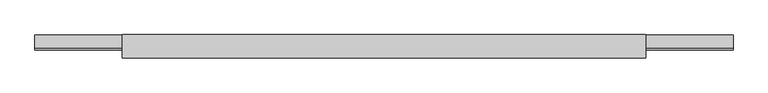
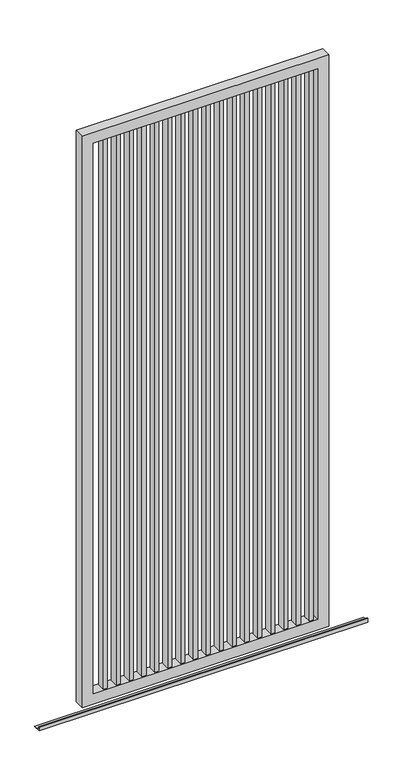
"""IFC4 building model written with IfcOpenShell, lengths in millimetres: proxy geometry, Renson_Amani_Loggia_Linea_Sliding : Renson_Amani_Loggia_Linea_Sliding."""

from ifc_helpers import new_model, si_unit, frame, origin, place, context, project, spatial, polyline, outline, extrude, source, transform, mapped, element, save


def generic_models_506817f9(model_context):
    return source(origin(), model_context, "Body", "SweptSolid", [
        extrude(outline(polyline([(396.5, 15.0), (396.5, -15.0), (381.5, -15.0), (381.5, 15.0), (396.5, 15.0)])), frame((0.0, 0.0, 85.0), z_axis=(0.0, 0.0, 1.0), x_axis=(1.0, 0.0, 0.0)), (0.0, 0.0, 1.0), 2125.0),
        extrude(outline(polyline([(349.5, 15.0), (349.5, -15.0), (334.5, -15.0), (334.5, 15.0), (349.5, 15.0)])), frame((0.0, 0.0, 85.0), z_axis=(0.0, 0.0, 1.0), x_axis=(1.0, 0.0, 0.0)), (0.0, 0.0, 1.0), 2125.0),
        extrude(outline(polyline([(302.5, 15.0), (302.5, -15.0), (287.5, -15.0), (287.5, 15.0), (302.5, 15.0)])), frame((0.0, 0.0, 85.0), z_axis=(0.0, 0.0, 1.0), x_axis=(1.0, 0.0, 0.0)), (0.0, 0.0, 1.0), 2125.0),
        extrude(outline(polyline([(255.5, 15.0), (255.5, -15.0), (240.5, -15.0), (240.5, 15.0), (255.5, 15.0)])), frame((0.0, 0.0, 85.0), z_axis=(0.0, 0.0, 1.0), x_axis=(1.0, 0.0, 0.0)), (0.0, 0.0, 1.0), 2125.0),
        extrude(outline(polyline([(208.5, 15.0), (208.5, -15.0), (193.5, -15.0), (193.5, 15.0), (208.5, 15.0)])), frame((0.0, 0.0, 85.0), z_axis=(0.0, 0.0, 1.0), x_axis=(1.0, 0.0, 0.0)), (0.0, 0.0, 1.0), 2125.0),
        extrude(outline(polyline([(161.5, 15.0), (161.5, -15.0), (146.5, -15.0), (146.5, 15.0), (161.5, 15.0)])), frame((0.0, 0.0, 85.0), z_axis=(0.0, 0.0, 1.0), x_axis=(1.0, 0.0, 0.0)), (0.0, 0.0, 1.0), 2125.0),
        extrude(outline(polyline([(114.5, 15.0), (114.5, -15.0), (99.5, -15.0), (99.5, 15.0), (114.5, 15.0)])), frame((0.0, 0.0, 85.0), z_axis=(0.0, 0.0, 1.0), x_axis=(1.0, 0.0, 0.0)), (0.0, 0.0, 1.0), 2125.0),
        extrude(outline(polyline([(67.5, 15.0), (67.5, -15.0), (52.5, -15.0), (52.5, 15.0), (67.5, 15.0)])), frame((0.0, 0.0, 85.0), z_axis=(0.0, 0.0, 1.0), x_axis=(1.0, 0.0, 0.0)), (0.0, 0.0, 1.0), 2125.0),
        extrude(outline(polyline([(20.5, 15.0), (20.5, -15.0), (5.5, -15.0), (5.5, 15.0), (20.5, 15.0)])), frame((0.0, 0.0, 85.0), z_axis=(0.0, 0.0, 1.0), x_axis=(1.0, 0.0, 0.0)), (0.0, 0.0, 1.0), 2125.0),
        extrude(outline(polyline([(-26.5, 15.0), (-26.5, -15.0), (-41.5, -15.0), (-41.5, 15.0), (-26.5, 15.0)])), frame((0.0, 0.0, 85.0), z_axis=(0.0, 0.0, 1.0), x_axis=(1.0, 0.0, 0.0)), (0.0, 0.0, 1.0), 2125.0),
        extrude(outline(polyline([(-73.5, 15.0), (-73.5, -15.0), (-88.5, -15.0), (-88.5, 15.0), (-73.5, 15.0)])), frame((0.0, 0.0, 85.0), z_axis=(0.0, 0.0, 1.0), x_axis=(1.0, 0.0, 0.0)), (0.0, 0.0, 1.0), 2125.0),
        extrude(outline(polyline([(-120.5, 15.0), (-120.5, -15.0), (-135.5, -15.0), (-135.5, 15.0), (-120.5, 15.0)])), frame((0.0, 0.0, 85.0), z_axis=(0.0, 0.0, 1.0), x_axis=(1.0, 0.0, 0.0)), (0.0, 0.0, 1.0), 2125.0),
        extrude(outline(polyline([(-167.5, 15.0), (-167.5, -15.0), (-182.5, -15.0), (-182.5, 15.0), (-167.5, 15.0)])), frame((0.0, 0.0, 85.0), z_axis=(0.0, 0.0, 1.0), x_axis=(1.0, 0.0, 0.0)), (0.0, 0.0, 1.0), 2125.0),
        extrude(outline(polyline([(-214.5, 15.0), (-214.5, -15.0), (-229.5, -15.0), (-229.5, 15.0), (-214.5, 15.0)])), frame((0.0, 0.0, 85.0), z_axis=(0.0, 0.0, 1.0), x_axis=(1.0, 0.0, 0.0)), (0.0, 0.0, 1.0), 2125.0),
        extrude(outline(polyline([(-261.5, 15.0), (-261.5, -15.0), (-276.5, -15.0), (-276.5, 15.0), (-261.5, 15.0)])), frame((0.0, 0.0, 85.0), z_axis=(0.0, 0.0, 1.0), x_axis=(1.0, 0.0, 0.0)), (0.0, 0.0, 1.0), 2125.0),
        extrude(outline(polyline([(-308.5, 15.0), (-308.5, -15.0), (-323.5, -15.0), (-323.5, 15.0), (-308.5, 15.0)])), frame((0.0, 0.0, 85.0), z_axis=(0.0, 0.0, 1.0), x_axis=(1.0, 0.0, 0.0)), (0.0, 0.0, 1.0), 2125.0),
        extrude(outline(polyline([(-355.5, 15.0), (-355.5, -15.0), (-370.5, -15.0), (-370.5, 15.0), (-355.5, 15.0)])), frame((0.0, 0.0, 85.0), z_axis=(0.0, 0.0, 1.0), x_axis=(1.0, 0.0, 0.0)), (0.0, 0.0, 1.0), 2125.0),
        extrude(outline(polyline([(-6.0, 15.0), (-3.0, 15.0), (-3.0, 3.0), (20.0, 3.0), (20.0, 0.0), (-6.0, 0.0), (-6.0, 15.0)])), frame((-600.0, 0.0, 0.0), z_axis=(1.0, 0.0, 0.0), x_axis=(0.0, 1.0, 0.0)), (0.0, 0.0, 1.0), 1200.0),
        extrude(outline(polyline([(2250.0, -450.0), (45.0, -450.0), (45.0, 450.0), (2250.0, 450.0), (2250.0, -450.0)]), holes=[polyline([(2210.0, 410.0), (85.0, 410.0), (85.0, -410.0), (2210.0, -410.0), (2210.0, 410.0)])]), frame((0.0, -20.0, 0.0), z_axis=(0.0, 1.0, 0.0), x_axis=(0.0, 0.0, 1.0)), (0.0, 0.0, 1.0), 40.0),
    ])


if __name__ == "__main__":
    model = new_model("IFC4")
    model_context = context("Model", 3, world=origin())
    ifc_project = project(units=[si_unit("LENGTHUNIT", "METRE", prefix="MILLI")], contexts=[model_context])
    site = spatial("IfcSite", under=ifc_project)
    building = spatial("IfcBuilding", under=site)
    placement = place(None, origin())
    generic_models_shape = generic_models_506817f9(model_context)
    element("IfcBuildingElementProxy", 1, Name="Renson_Amani_Loggia_Linea_Sliding : Renson_Amani_Loggia_Linea_Sliding", ObjectType="Renson_Amani_Loggia_Linea_Sliding : Renson_Amani_Loggia_Linea_Sliding", at=placement, inside=building, context=model_context, shape_type="MappedRepresentation", body=[
        mapped(generic_models_shape, transform((0.0, 0.0, 0.0), x_axis=(1.0, 0.0, 0.0), y_axis=(0.0, 1.0, 0.0), z_axis=(0.0, 0.0, 1.0))),
    ])
    save(model, "model.ifc")
